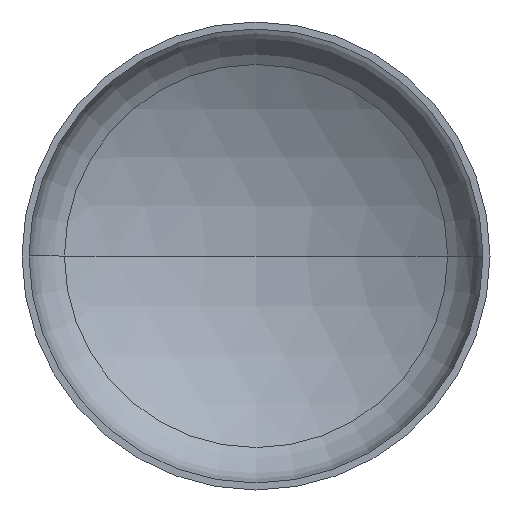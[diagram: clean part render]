
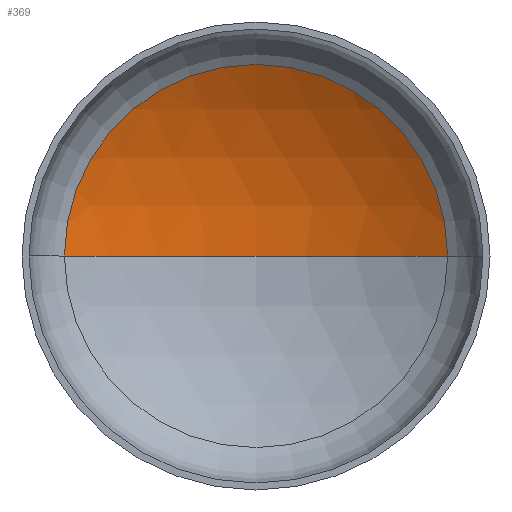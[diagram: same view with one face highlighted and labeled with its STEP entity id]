
A CAD part, front view. The second image highlights one B-rep face of the part: STEP entity #369.
In plain terms, the highlighted spherical face has radius 800 mm.
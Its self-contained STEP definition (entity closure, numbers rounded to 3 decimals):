
#6 = AXIS2_PLACEMENT_3D ( 'NONE', #289, #319, #144 ) ;
#7 = ORIENTED_EDGE ( 'NONE', *, *, #364, .F. ) ;
#13 = EDGE_LOOP ( 'NONE', ( #7, #111, #101 ) ) ;
#15 = AXIS2_PLACEMENT_3D ( 'NONE', #67, #128, #142 ) ;
#16 = AXIS2_PLACEMENT_3D ( 'NONE', #366, #164, #388 ) ;
#56 = AXIS2_PLACEMENT_3D ( 'NONE', #195, #199, #367 ) ;
#67 = CARTESIAN_POINT ( 'NONE',  ( 0., -509.189, 0. ) ) ;
#68 = VERTEX_POINT ( 'NONE', #259 ) ;
#96 = VERTEX_POINT ( 'NONE', #241 ) ;
#101 = ORIENTED_EDGE ( 'NONE', *, *, #133, .T. ) ;
#111 = ORIENTED_EDGE ( 'NONE', *, *, #361, .T. ) ;
#121 = VERTEX_POINT ( 'NONE', #190 ) ;
#128 = DIRECTION ( 'NONE',  ( 0., 0., 1. ) ) ;
#133 = EDGE_CURVE ( 'NONE', #68, #96, #153, .T. ) ;
#142 = DIRECTION ( 'NONE',  ( 1., 0., 0. ) ) ;
#144 = DIRECTION ( 'NONE',  ( -1., 0., 0. ) ) ;
#153 = CIRCLE ( 'NONE', #56, 409.302 ) ;
#164 = DIRECTION ( 'NONE',  ( 0., 0., -1. ) ) ;
#179 = FACE_OUTER_BOUND ( 'NONE', #13, .T. ) ;
#190 = CARTESIAN_POINT ( 'NONE',  ( 0., 290.811, 0. ) ) ;
#195 = CARTESIAN_POINT ( 'NONE',  ( 0., 178.177, 0. ) ) ;
#199 = DIRECTION ( 'NONE',  ( 0., -1., 0. ) ) ;
#241 = CARTESIAN_POINT ( 'NONE',  ( -409.302, 178.177, 0. ) ) ;
#259 = CARTESIAN_POINT ( 'NONE',  ( 409.302, 178.177, 0. ) ) ;
#289 = CARTESIAN_POINT ( 'NONE',  ( 0., -509.189, 0. ) ) ;
#305 = SPHERICAL_SURFACE ( 'NONE', #6, 800. ) ;
#319 = DIRECTION ( 'NONE',  ( 0., 0., -1. ) ) ;
#361 = EDGE_CURVE ( 'NONE', #121, #68, #375, .T. ) ;
#364 = EDGE_CURVE ( 'NONE', #121, #96, #368, .T. ) ;
#366 = CARTESIAN_POINT ( 'NONE',  ( 0., -509.189, 0. ) ) ;
#367 = DIRECTION ( 'NONE',  ( 1., 0., 0. ) ) ;
#368 = CIRCLE ( 'NONE', #15, 800. ) ;
#369 = ADVANCED_FACE ( 'NONE', ( #179 ), #305, .F. ) ;
#375 = CIRCLE ( 'NONE', #16, 800. ) ;
#388 = DIRECTION ( 'NONE',  ( -1., 0., 0. ) ) ;
